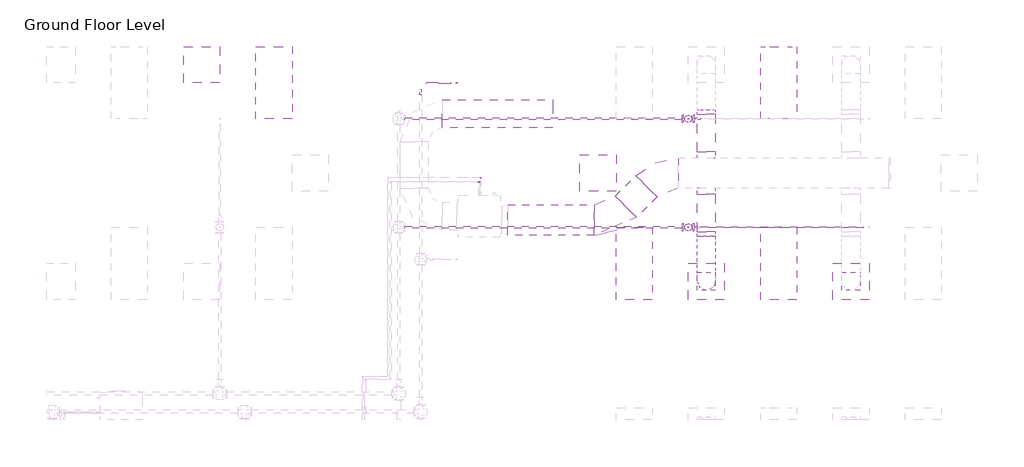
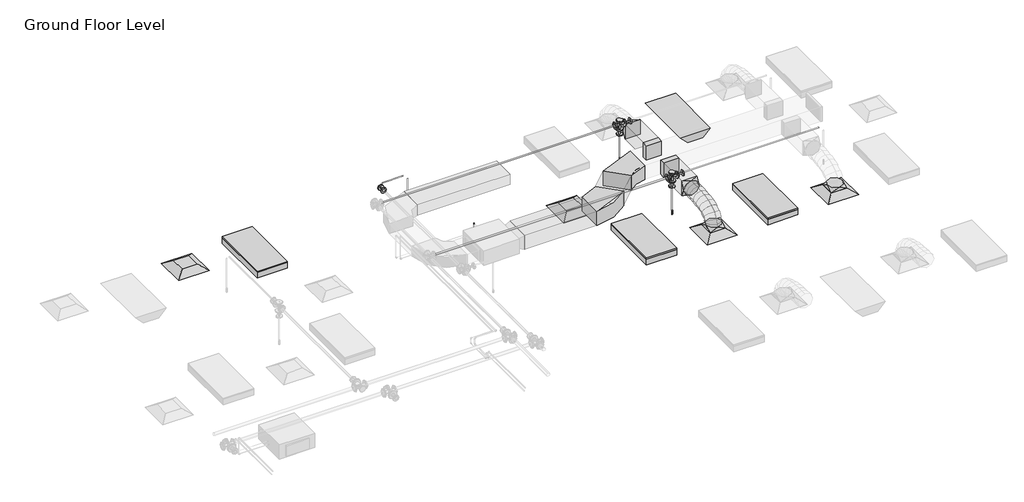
# One storey, part 71 of 73: 11 pipe fittings, 9 pipe segments, 8 duct fittings, 6 duct segments, 4 air terminals, 4 light fixtures, 3 fire suppression terminals.
"""IFC4 building model written with IfcOpenShell, lengths in millimetres."""

from ifc_helpers import new_model, si_unit, point, frame, frame_2d, origin, place, context, project, spatial, polyline, circle_curve, ellipse_curve, trimmed, segment, composite_curve, outline, extrude, transform, mapped, element, save
from ifc_brep_helpers import plane_surface, cylinder_surface, advanced_brep
from components import m_return_diffuser_600_x_600_face_300_x_300_connection_ff221211, m_rectangular_elbow_radius_1_5_w_acc56c25, m_rectangular_takeoff_standard_cb0ccb98, m_rectangular_takeoff_standard_2be5eba1, m_rectangular_to_round_transition_angle_45_degree_641efff0, m_sprinkler_dry_pendent_hosted_15_mm_dry_pendent_9bda8e11, m_sprinkler_pendent_15_mm_pendent_06fcbd8e, m_emergency_recessed_lighting_fixture_600x1200_277_5b10b25d, m_troffer_light_parabolic_rectangular1_0600x1200mm_4_lamp_86473d4a, m_elbow_generic_standard_a088f956, m_elbow_generic_standard_2a704253, m_reducer_flanged_cs_class_150_standard_ccf252ad, m_tee_round_base_flanged_cs_class_150_standard_7e5987a1

model = new_model("IFC4")

# Units and contexts
model_context = context("Model", 3, world=origin())
ifc_project = project(units=[si_unit("LENGTHUNIT", "METRE", prefix="MILLI")], contexts=[model_context])

# Site, building, storey
site = spatial("IfcSite", under=ifc_project)
building = spatial("IfcBuilding", under=site)
storey = spatial("IfcBuildingStorey", under=building, Name="Ground Floor Level", Elevation=900.0)

# Air terminals
placement = place(None, origin())
m_return_diffuser_600_x_600_face_300_x_300_connection_shape = m_return_diffuser_600_x_600_face_300_x_300_connection_ff221211(model_context)
element("IfcAirTerminal", 1, ObjectType="M_Return Diffuser : 600 x 600 Face 300 x 300 Connection", at=placement, inside=storey, context=model_context, shape_type="MappedRepresentation", body=[
    mapped(m_return_diffuser_600_x_600_face_300_x_300_connection_shape, transform((8942.7672395, 18735.2153534, 3650.0), x_axis=(1.0, 0.0, 0.0), y_axis=(0.0, 1.0, 0.0), z_axis=(0.0, 0.0, 1.0))),
])
element("IfcAirTerminal", 2, ObjectType="M_Supply Diffuser : 600 x 600 Face 300 x 300 Connection", at=placement, inside=storey, context=model_context, shape_type="MappedRepresentation", body=[
    mapped(m_return_diffuser_600_x_600_face_300_x_300_connection_shape, transform((10742.7672395, 16935.2153534, 3650.0), x_axis=(1.0, 0.0, 0.0), y_axis=(0.0, 1.0, 0.0), z_axis=(0.0, 0.0, 1.0))),
])
element("IfcAirTerminal", 3, ObjectType="M_Supply Diffuser : 600 x 600 Face 300 x 300 Connection", at=placement, inside=storey, context=model_context, shape_type="MappedRepresentation", body=[
    mapped(m_return_diffuser_600_x_600_face_300_x_300_connection_shape, transform((13142.7672395, 16935.2153534, 3650.0), x_axis=(1.0, 0.0, 0.0), y_axis=(0.0, 1.0, 0.0), z_axis=(0.0, 0.0, 1.0))),
])
element("IfcAirTerminal", 4, ObjectType="M_Supply Diffuser : 600 x 600 Face 300 x 300 Connection", at=placement, inside=storey, context=model_context, shape_type="MappedRepresentation", body=[
    mapped(m_return_diffuser_600_x_600_face_300_x_300_connection_shape, transform((2362.7672395, 20535.2153534, 3650.0), x_axis=(1.0, 0.0, 0.0), y_axis=(0.0, 1.0, 0.0), z_axis=(0.0, 0.0, 1.0))),
])

# Duct fittings
m_rectangular_elbow_radius_1_5_w_shape = m_rectangular_elbow_radius_1_5_w_acc56c25(model_context)
element("IfcDuctFitting", 5, ObjectType="M_Rectangular Elbow - Radius : 1.5 W", at=placement, inside=storey, context=model_context, shape_type="MappedRepresentation", body=[
    mapped(m_rectangular_elbow_radius_1_5_w_shape, transform((9187.6927358, 17956.1779527, 4100.0047224), x_axis=(0.9999999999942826, 0.0, -3.3815582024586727e-06), y_axis=(-9.063610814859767e-12, 0.9999999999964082, -2.680306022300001e-06), z_axis=(3.3815582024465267e-06, 2.6803060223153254e-06, 0.9999999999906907))),
])
element("IfcDuctFitting", 6, ObjectType="M_Rectangular Elbow - Radius : 1.5 W", at=placement, inside=storey, context=model_context, shape_type="MappedRepresentation", body=[
    mapped(m_rectangular_elbow_radius_1_5_w_shape, transform((9966.7301365, 18735.2153534, 4100.0), x_axis=(-1.0, 0.0, 0.0), y_axis=(0.0, -0.9999999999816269, 6.061864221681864e-06), z_axis=(0.0, 6.061864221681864e-06, 0.9999999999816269))),
])
m_rectangular_takeoff_standard_shape = m_rectangular_takeoff_standard_cb0ccb98(model_context)
element("IfcDuctFitting", 7, ObjectType="M_Rectangular Takeoff : Standard", at=placement, inside=storey, context=model_context, shape_type="MappedRepresentation", body=[
    mapped(m_rectangular_takeoff_standard_shape, transform((10742.7672395, 18985.2153534, 4100.0), x_axis=(0.0, 1.0, 0.0), y_axis=(1.0, 0.0, 0.0), z_axis=(0.0, 0.0, -1.0))),
])
m_rectangular_takeoff_standard_2_shape = m_rectangular_takeoff_standard_2be5eba1(model_context)
element("IfcDuctFitting", 8, ObjectType="M_Rectangular Takeoff : Standard", at=placement, inside=storey, context=model_context, shape_type="MappedRepresentation", body=[
    mapped(m_rectangular_takeoff_standard_2_shape, transform((10742.7672395, 18485.2153534, 4100.0), x_axis=(0.0, -1.0, 0.0), y_axis=(-1.0, 0.0, 0.0), z_axis=(0.0, 0.0, -1.0))),
])
m_rectangular_to_round_transition_angle_45_degree_shape = m_rectangular_to_round_transition_angle_45_degree_641efff0(model_context)
element("IfcDuctFitting", 9, ObjectType="M_Rectangular to Round Transition - Angle : 45 Degree", at=placement, inside=storey, context=model_context, shape_type="MappedRepresentation", body=[
    mapped(m_rectangular_to_round_transition_angle_45_degree_shape, transform((10742.7672395, 16935.2153534, 3751.6), x_axis=(0.0, 0.0, 1.0), y_axis=(-1.0, 0.0, 0.0), z_axis=(0.0, -1.0, 0.0))),
])
element("IfcDuctFitting", 10, ObjectType="M_Rectangular to Round Transition - Angle : 45 Degree", at=placement, inside=storey, context=model_context, shape_type="MappedRepresentation", body=[
    mapped(m_rectangular_to_round_transition_angle_45_degree_shape, transform((10742.7672395, 17762.5512847, 4100.0), x_axis=(0.0, -1.0, 0.0), y_axis=(1.0, 0.0, 0.0), z_axis=(0.0, 0.0, 1.0))),
])
element("IfcDuctFitting", 11, ObjectType="M_Rectangular to Round Transition - Angle : 45 Degree", at=placement, inside=storey, context=model_context, shape_type="MappedRepresentation", body=[
    mapped(m_rectangular_to_round_transition_angle_45_degree_shape, transform((10742.7672395, 19707.8794221, 4100.0), x_axis=(0.0, 1.0, 0.0), y_axis=(-1.0, 0.0, 0.0), z_axis=(0.0, 0.0, 1.0))),
])
element("IfcDuctFitting", 12, ObjectType="M_Rectangular to Round Transition - Angle : 45 Degree", at=placement, inside=storey, context=model_context, shape_type="MappedRepresentation", body=[
    mapped(m_rectangular_to_round_transition_angle_45_degree_shape, transform((13142.7672395, 16935.2153534, 3751.6), x_axis=(0.0, 0.0, 1.0), y_axis=(-1.0, 0.0, 0.0), z_axis=(0.0, -1.0, 0.0))),
])

# Duct segments
element("IfcDuctSegment", 13, ObjectType="Flex - Round", at=placement, inside=storey, context=model_context, shape_type="AdvancedBrep", body=[
    advanced_brep(
    [(10892.7672395, 16935.2153534, 3826.6), (10742.7672395, 16785.2153534, 3826.6), (10592.7672395, 16935.2153534, 3826.6), (10742.7672395, 17085.2153534, 3826.6), (10892.7672395, 16935.2153534, 3857.9377114), (10742.7672395, 16785.2153534, 3883.5809337), (10592.7672395, 16935.2153534, 3857.9377114), (10742.7672395, 17085.2153534, 3832.2944892), (10892.7672395, 16952.2312859, 3906.2505728), (10742.7672395, 16818.493307, 3978.0660967), (10592.7672395, 16952.2312859, 3906.2505728), (10742.7672395, 17085.9692649, 3834.435049), (10892.7672395, 16999.4151663, 3968.7113131), (10742.7672395, 16895.209267, 4079.6206026), (10592.7672395, 16999.4151663, 3968.7113131), (10742.7672395, 17103.6210655, 3857.8020236), (10892.7672395, 17070.9711184, 4016.0700639), (10742.7672395, 17002.0370628, 4150.3237489), (10592.7672395, 17070.9711184, 4016.0700639), (10742.7672395, 17139.9051741, 3881.8163788), (10892.7672395, 17161.1032664, 4050.4146682), (10742.7672395, 17117.5425033, 4194.3367758), (10592.7672395, 17161.1032664, 4050.4146682), (10742.7672395, 17204.6640296, 3906.4925606), (10892.7672395, 17264.0157343, 4073.8329691), (10742.7672395, 17237.4548103, 4221.6234841), (10592.7672395, 17264.0157343, 4073.8329691), (10742.7672395, 17290.5766583, 3926.0424542), (10892.7672395, 17373.912646, 4088.4128097), (10742.7672395, 17358.7617437, 4237.7170733), (10592.7672395, 17373.912646, 4088.4128097), (10742.7672395, 17389.0635483, 3939.1085462), (10892.7672395, 17484.9981256, 4096.242033), (10742.7672395, 17477.4927975, 4246.085151), (10592.7672395, 17484.9981256, 4096.242033), (10742.7672395, 17492.5034538, 3946.398915), (10892.7672395, 17591.4762972, 4099.4084821), (10742.7672395, 17588.7848041, 4249.394754), (10592.7672395, 17591.4762972, 4099.4084821), (10742.7672395, 17594.1677903, 3949.4222102), (10892.7672395, 17687.5512847, 4100.0), (10742.7672395, 17688.4747925, 3950.0028429), (10592.7672395, 17687.5512847, 4100.0), (10742.7672395, 17686.6277768, 4249.9971571)],
    [
        (0, 1, circle_curve(frame((10742.7672395, 16935.2153534, 3826.6), z_axis=(0.0, 0.0, -1.0), x_axis=(1.0, 0.0, 0.0)), 150.0)),
        (1, 2, circle_curve(frame((10742.7672395, 16935.2153534, 3826.6), z_axis=(0.0, 0.0, -1.0), x_axis=(1.0, 0.0, 0.0)), 150.0)),
        (2, 3, circle_curve(frame((10742.7672395, 16935.2153534, 3826.6), z_axis=(0.0, 0.0, -1.0), x_axis=(1.0, 0.0, 0.0)), 150.0)),
        (3, 0, circle_curve(frame((10742.7672395, 16935.2153534, 3826.6), z_axis=(0.0, 0.0, -1.0), x_axis=(1.0, 0.0, 0.0)), 150.0)),
        (0, 4),
        (4, 5, ellipse_curve(frame((10742.7672395, 16935.2153534, 3857.9377114), z_axis=(0.0, -0.16851014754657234, -0.9856999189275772), x_axis=(0.0, 0.9856999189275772, -0.1685101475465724)), 152.176131, 150.0)),
        (5, 1),
        (5, 6, ellipse_curve(frame((10742.7672395, 16935.2153534, 3857.9377114), z_axis=(0.0, -0.16851014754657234, -0.9856999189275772), x_axis=(0.0, 0.9856999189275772, -0.1685101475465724)), 152.176131, 150.0)),
        (6, 2),
        (6, 7, ellipse_curve(frame((10742.7672395, 16935.2153534, 3857.9377114), z_axis=(0.0, -0.16851014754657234, -0.9856999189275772), x_axis=(0.0, 0.9856999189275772, -0.1685101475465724)), 152.176131, 150.0)),
        (7, 3),
        (7, 4, ellipse_curve(frame((10742.7672395, 16935.2153534, 3857.9377114), z_axis=(0.0, -0.16851014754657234, -0.9856999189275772), x_axis=(0.0, 0.9856999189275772, -0.1685101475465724)), 152.176131, 150.0)),
        (4, 8),
        (8, 9, ellipse_curve(frame((10742.7672395, 16952.2312859, 3906.2505728), z_axis=(0.0, -0.47309225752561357, -0.8810128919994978), x_axis=(0.0, 0.8810128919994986, -0.47309225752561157)), 151.8002519, 150.0)),
        (9, 5),
        (9, 10, ellipse_curve(frame((10742.7672395, 16952.2312859, 3906.2505728), z_axis=(0.0, -0.47309225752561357, -0.8810128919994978), x_axis=(0.0, 0.8810128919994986, -0.47309225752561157)), 151.8002519, 150.0)),
        (10, 6),
        (10, 11, ellipse_curve(frame((10742.7672395, 16952.2312859, 3906.2505728), z_axis=(0.0, -0.47309225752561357, -0.8810128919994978), x_axis=(0.0, 0.8810128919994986, -0.47309225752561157)), 151.8002519, 150.0)),
        (11, 7),
        (11, 8, ellipse_curve(frame((10742.7672395, 16952.2312859, 3906.2505728), z_axis=(0.0, -0.47309225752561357, -0.8810128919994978), x_axis=(0.0, 0.8810128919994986, -0.47309225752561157)), 151.8002519, 150.0)),
        (8, 12),
        (12, 13, ellipse_curve(frame((10742.7672395, 16999.4151663, 3968.7113131), z_axis=(0.0, -0.7287877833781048, -0.6847396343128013), x_axis=(0.0, 0.6847396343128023, -0.7287877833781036)), 152.1832446, 150.0)),
        (13, 9),
        (13, 14, ellipse_curve(frame((10742.7672395, 16999.4151663, 3968.7113131), z_axis=(0.0, -0.7287877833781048, -0.6847396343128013), x_axis=(0.0, 0.6847396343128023, -0.7287877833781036)), 152.1832446, 150.0)),
        (14, 10),
        (14, 15, ellipse_curve(frame((10742.7672395, 16999.4151663, 3968.7113131), z_axis=(0.0, -0.7287877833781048, -0.6847396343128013), x_axis=(0.0, 0.6847396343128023, -0.7287877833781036)), 152.1832446, 150.0)),
        (15, 11),
        (15, 12, ellipse_curve(frame((10742.7672395, 16999.4151663, 3968.7113131), z_axis=(0.0, -0.7287877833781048, -0.6847396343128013), x_axis=(0.0, 0.6847396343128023, -0.7287877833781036)), 152.1832446, 150.0)),
        (12, 16),
        (16, 17, ellipse_curve(frame((10742.7672395, 17070.9711184, 4016.0700639), z_axis=(0.0, -0.8895859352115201, -0.45676784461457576), x_axis=(0.0, 0.45676784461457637, -0.8895859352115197)), 150.91705, 150.0)),
        (17, 13),
        (17, 18, ellipse_curve(frame((10742.7672395, 17070.9711184, 4016.0700639), z_axis=(0.0, -0.8895859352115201, -0.45676784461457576), x_axis=(0.0, 0.45676784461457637, -0.8895859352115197)), 150.91705, 150.0)),
        (18, 14),
        (18, 19, ellipse_curve(frame((10742.7672395, 17070.9711184, 4016.0700639), z_axis=(0.0, -0.8895859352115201, -0.45676784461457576), x_axis=(0.0, 0.45676784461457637, -0.8895859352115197)), 150.91705, 150.0)),
        (19, 15),
        (19, 16, ellipse_curve(frame((10742.7672395, 17070.9711184, 4016.0700639), z_axis=(0.0, -0.8895859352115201, -0.45676784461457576), x_axis=(0.0, 0.45676784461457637, -0.8895859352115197)), 150.91705, 150.0)),
        (16, 20),
        (20, 21, ellipse_curve(frame((10742.7672395, 17161.1032664, 4050.4146682), z_axis=(0.0, -0.9571203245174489, -0.2896906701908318), x_axis=(0.0, 0.28969067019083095, -0.9571203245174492)), 150.369921, 150.0)),
        (21, 17),
        (21, 22, ellipse_curve(frame((10742.7672395, 17161.1032664, 4050.4146682), z_axis=(0.0, -0.9571203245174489, -0.2896906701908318), x_axis=(0.0, 0.28969067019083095, -0.9571203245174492)), 150.369921, 150.0)),
        (22, 18),
        (22, 23, ellipse_curve(frame((10742.7672395, 17161.1032664, 4050.4146682), z_axis=(0.0, -0.9571203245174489, -0.2896906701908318), x_axis=(0.0, 0.28969067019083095, -0.9571203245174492)), 150.369921, 150.0)),
        (23, 19),
        (23, 20, ellipse_curve(frame((10742.7672395, 17161.1032664, 4050.4146682), z_axis=(0.0, -0.9571203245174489, -0.2896906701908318), x_axis=(0.0, 0.28969067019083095, -0.9571203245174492)), 150.369921, 150.0)),
        (20, 24),
        (24, 25, ellipse_curve(frame((10742.7672395, 17264.0157343, 4073.8329691), z_axis=(0.0, -0.9842313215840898, -0.17688613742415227), x_axis=(0.0, 0.17688613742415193, -0.9842313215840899)), 150.1583131, 150.0)),
        (25, 21),
        (25, 26, ellipse_curve(frame((10742.7672395, 17264.0157343, 4073.8329691), z_axis=(0.0, -0.9842313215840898, -0.17688613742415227), x_axis=(0.0, 0.17688613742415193, -0.9842313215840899)), 150.1583131, 150.0)),
        (26, 22),
        (26, 27, ellipse_curve(frame((10742.7672395, 17264.0157343, 4073.8329691), z_axis=(0.0, -0.9842313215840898, -0.17688613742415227), x_axis=(0.0, 0.17688613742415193, -0.9842313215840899)), 150.1583131, 150.0)),
        (27, 23),
        (27, 24, ellipse_curve(frame((10742.7672395, 17264.0157343, 4073.8329691), z_axis=(0.0, -0.9842313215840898, -0.17688613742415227), x_axis=(0.0, 0.17688613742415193, -0.9842313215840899)), 150.1583131, 150.0)),
        (24, 28),
        (28, 29, ellipse_curve(frame((10742.7672395, 17373.912646, 4088.4128097), z_axis=(0.0, -0.9948906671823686, -0.1009582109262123), x_axis=(0.0, 0.10095821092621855, -0.994890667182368)), 150.0710264, 150.0)),
        (29, 25),
        (29, 30, ellipse_curve(frame((10742.7672395, 17373.912646, 4088.4128097), z_axis=(0.0, -0.9948906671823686, -0.1009582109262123), x_axis=(0.0, 0.10095821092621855, -0.994890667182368)), 150.0710264, 150.0)),
        (30, 26),
        (30, 31, ellipse_curve(frame((10742.7672395, 17373.912646, 4088.4128097), z_axis=(0.0, -0.9948906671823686, -0.1009582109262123), x_axis=(0.0, 0.10095821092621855, -0.994890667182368)), 150.0710264, 150.0)),
        (31, 27),
        (31, 28, ellipse_curve(frame((10742.7672395, 17373.912646, 4088.4128097), z_axis=(0.0, -0.9948906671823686, -0.1009582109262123), x_axis=(0.0, 0.10095821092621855, -0.994890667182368)), 150.0710264, 150.0)),
        (28, 32),
        (32, 33, ellipse_curve(frame((10742.7672395, 17484.9981256, 4096.242033), z_axis=(0.0, -0.9987479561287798, -0.05002519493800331), x_axis=(0.0, 0.05002519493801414, -0.9987479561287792)), 150.0309634, 150.0)),
        (33, 29),
        (33, 34, ellipse_curve(frame((10742.7672395, 17484.9981256, 4096.242033), z_axis=(0.0, -0.9987479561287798, -0.05002519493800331), x_axis=(0.0, 0.05002519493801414, -0.9987479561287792)), 150.0309634, 150.0)),
        (34, 30),
        (34, 35, ellipse_curve(frame((10742.7672395, 17484.9981256, 4096.242033), z_axis=(0.0, -0.9987479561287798, -0.05002519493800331), x_axis=(0.0, 0.05002519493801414, -0.9987479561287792)), 150.0309634, 150.0)),
        (35, 31),
        (35, 32, ellipse_curve(frame((10742.7672395, 17484.9981256, 4096.242033), z_axis=(0.0, -0.9987479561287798, -0.05002519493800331), x_axis=(0.0, 0.05002519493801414, -0.9987479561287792)), 150.0309634, 150.0)),
        (32, 36),
        (36, 37, ellipse_curve(frame((10742.7672395, 17591.4762972, 4099.4084821), z_axis=(0.0, -0.9998390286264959, -0.017942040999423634), x_axis=(0.0, 0.017942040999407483, -0.9998390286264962)), 150.0104193, 150.0)),
        (37, 33),
        (37, 38, ellipse_curve(frame((10742.7672395, 17591.4762972, 4099.4084821), z_axis=(0.0, -0.9998390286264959, -0.017942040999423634), x_axis=(0.0, 0.017942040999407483, -0.9998390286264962)), 150.0104193, 150.0)),
        (38, 34),
        (38, 39, ellipse_curve(frame((10742.7672395, 17591.4762972, 4099.4084821), z_axis=(0.0, -0.9998390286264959, -0.017942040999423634), x_axis=(0.0, 0.017942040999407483, -0.9998390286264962)), 150.0104193, 150.0)),
        (39, 35),
        (39, 36, ellipse_curve(frame((10742.7672395, 17591.4762972, 4099.4084821), z_axis=(0.0, -0.9998390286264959, -0.017942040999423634), x_axis=(0.0, 0.017942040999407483, -0.9998390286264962)), 150.0104193, 150.0)),
        (40, 41, circle_curve(frame((10742.7672395, 17687.5512847, 4100.0), z_axis=(0.0, 0.9999810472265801, 0.006156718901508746), x_axis=(1.0, 0.0, 0.0)), 150.0)),
        (41, 42, circle_curve(frame((10742.7672395, 17687.5512847, 4100.0), z_axis=(0.0, 0.9999810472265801, 0.006156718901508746), x_axis=(1.0, 0.0, 0.0)), 150.0)),
        (42, 43, circle_curve(frame((10742.7672395, 17687.5512847, 4100.0), z_axis=(0.0, 0.9999810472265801, 0.006156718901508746), x_axis=(1.0, 0.0, 0.0)), 150.0)),
        (43, 40, circle_curve(frame((10742.7672395, 17687.5512847, 4100.0), z_axis=(0.0, 0.9999810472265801, 0.006156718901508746), x_axis=(1.0, 0.0, 0.0)), 150.0)),
        (36, 40),
        (43, 37),
        (42, 38),
        (41, 39),
    ],
    [
        plane_surface(frame((10742.7672395, 16785.2153534, 3826.6), z_axis=(0.0, 0.0, -1.0), x_axis=(1.0, 0.0, 0.0))),
        cylinder_surface(frame((10742.7672395, 16935.2153534, 3826.6), z_axis=(0.0, 0.0, -1.0), x_axis=(1.0, 0.0, 0.0)), 150.0),
        cylinder_surface(frame((10742.7672395, 16935.2153534, 3857.9377114), z_axis=(0.0, -0.3322008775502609, -0.9432086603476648), x_axis=(1.0, 0.0, 0.0)), 150.0),
        cylinder_surface(frame((10742.7672395, 16952.2312859, 3906.2505728), z_axis=(0.0, -0.6027625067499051, -0.7979206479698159), x_axis=(1.0, 0.0, 0.0)), 150.0),
        cylinder_surface(frame((10742.7672395, 16999.4151663, 3968.7113131), z_axis=(0.0, -0.833902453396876, -0.5519118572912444), x_axis=(1.0, 0.0, 0.0)), 150.0),
        cylinder_surface(frame((10742.7672395, 17070.9711184, 4016.0700639), z_axis=(0.0, -0.9344582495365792, -0.35607271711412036), x_axis=(1.0, 0.0, 0.0)), 150.0),
        cylinder_surface(frame((10742.7672395, 17161.1032664, 4050.4146682), z_axis=(0.0, -0.9750732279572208, -0.22188330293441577), x_axis=(1.0, 0.0, 0.0)), 150.0),
        cylinder_surface(frame((10742.7672395, 17264.0157343, 4073.8329691), z_axis=(0.0, -0.9913140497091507, -0.13151598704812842), x_axis=(1.0, 0.0, 0.0)), 150.0),
        cylinder_surface(frame((10742.7672395, 17373.912646, 4088.4128097), z_axis=(0.0, -0.9975255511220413, -0.07030487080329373), x_axis=(1.0, 0.0, 0.0)), 150.0),
        cylinder_surface(frame((10742.7672395, 17484.9981256, 4096.242033), z_axis=(0.0, -0.9995581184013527, -0.02972487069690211), x_axis=(1.0, 0.0, 0.0)), 150.0),
        plane_surface(frame((10742.7672395, 17686.6277768, 4249.9971571), z_axis=(0.0, 0.9999810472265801, 0.0061567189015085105), x_axis=(1.0, 0.0, 0.0))),
        cylinder_surface(frame((10742.7672395, 17591.4762972, 4099.4084821), z_axis=(0.0, -0.9999810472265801, -0.006156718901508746), x_axis=(1.0, 0.0, 0.0)), 150.0),
    ],
    [
        (0, [[1, 2, 3, 4]]),
        (1, [[-1, 5, 6, 7]]),
        (1, [[-2, -7, 8, 9]]),
        (1, [[-3, -9, 10, 11]]),
        (1, [[-4, -11, 12, -5]]),
        (2, [[-6, 13, 14, 15]]),
        (2, [[-8, -15, 16, 17]]),
        (2, [[-10, -17, 18, 19]]),
        (2, [[-12, -19, 20, -13]]),
        (3, [[-14, 21, 22, 23]]),
        (3, [[-16, -23, 24, 25]]),
        (3, [[-18, -25, 26, 27]]),
        (3, [[-20, -27, 28, -21]]),
        (4, [[-22, 29, 30, 31]]),
        (4, [[-24, -31, 32, 33]]),
        (4, [[-26, -33, 34, 35]]),
        (4, [[-28, -35, 36, -29]]),
        (5, [[-30, 37, 38, 39]]),
        (5, [[-32, -39, 40, 41]]),
        (5, [[-34, -41, 42, 43]]),
        (5, [[-36, -43, 44, -37]]),
        (6, [[-38, 45, 46, 47]]),
        (6, [[-40, -47, 48, 49]]),
        (6, [[-42, -49, 50, 51]]),
        (6, [[-44, -51, 52, -45]]),
        (7, [[-46, 53, 54, 55]]),
        (7, [[-48, -55, 56, 57]]),
        (7, [[-50, -57, 58, 59]]),
        (7, [[-52, -59, 60, -53]]),
        (8, [[-54, 61, 62, 63]]),
        (8, [[-56, -63, 64, 65]]),
        (8, [[-58, -65, 66, 67]]),
        (8, [[-60, -67, 68, -61]]),
        (9, [[-62, 69, 70, 71]]),
        (9, [[-64, -71, 72, 73]]),
        (9, [[-66, -73, 74, 75]]),
        (9, [[-68, -75, 76, -69]]),
        (10, [[77, 78, 79, 80]]),
        (11, [[-70, 81, -80, 82]]),
        (11, [[-72, -82, -79, 83]]),
        (11, [[-74, -83, -78, 84]]),
        (11, [[-76, -84, -77, -81]]),
    ],
),
])
element("IfcDuctSegment", 14, ObjectType="Radius Elbows / Taps", at=placement, inside=storey, context=model_context, shape_type="SweptSolid", body=[
    extrude(outline(polyline([(7447.693178, 17706.1779527), (7447.693178, 18206.1779527), (8877.032564, 18206.1779527), (8877.032564, 17706.1779527), (7447.693178, 17706.1779527)])), frame((0.0, 0.0, 3950.0057729), z_axis=(0.0, 0.0, 1.0), x_axis=(1.0, 0.0, 0.0)), (0.0, 0.0, 1.0), 300.0),
])
element("IfcDuctSegment", 15, ObjectType="Radius Elbows / Taps", at=placement, inside=storey, context=model_context, shape_type="SweptSolid", body=[
    extrude(outline(polyline([(9584.1393452, 17999.0711715), (9230.5859546, 18352.6245621), (9570.2835271, 18692.3221346), (9923.8369177, 18338.768744), (9584.1393452, 17999.0711715)])), frame((0.0, 0.0, 3950.0033908), z_axis=(0.0, 0.0, 1.0), x_axis=(1.0, 0.0, 0.0)), (0.0, 0.0, 1.0), 300.0),
])
element("IfcDuctSegment", 16, ObjectType="Radius Elbows / Taps", at=placement, inside=storey, context=model_context, shape_type="SweptSolid", body=[
    extrude(outline(polyline([(6355.2889492, 19488.7408949), (6355.2889492, 19950.6158949), (8193.4139492, 19950.6158949), (8193.4139492, 19488.7408949), (6355.2889492, 19488.7408949)])), frame((0.0, 0.0, 3968.1432729), z_axis=(0.0, 0.0, 1.0), x_axis=(1.0, 0.0, 0.0)), (0.0, 0.0, 1.0), 214.3),
])
element("IfcDuctSegment", 17, ObjectType="Radius Elbows / Taps", at=placement, inside=storey, context=model_context, shape_type="SweptSolid", body=[
    extrude(outline(polyline([(10892.7672395, 19086.8153534), (10592.7672395, 19086.8153534), (10592.7672395, 19707.8794221), (10892.7672395, 19707.8794221), (10892.7672395, 19086.8153534)])), frame((0.0, 0.0, 3950.0), z_axis=(0.0, 0.0, 1.0), x_axis=(1.0, 0.0, 0.0)), (0.0, 0.0, 1.0), 300.0),
])
element("IfcDuctSegment", 18, ObjectType="Radius Elbows / Taps", at=placement, inside=storey, context=model_context, shape_type="SweptSolid", body=[
    extrude(outline(polyline([(10592.7672395, 18383.6153534), (10892.7672395, 18383.6153534), (10892.7672395, 17762.5512847), (10592.7672395, 17762.5512847), (10592.7672395, 18383.6153534)])), frame((0.0, 0.0, 3950.0), z_axis=(0.0, 0.0, 1.0), x_axis=(1.0, 0.0, 0.0)), (0.0, 0.0, 1.0), 300.0),
])

# Fire suppression terminals
m_sprinkler_dry_pendent_hosted_15_mm_dry_pendent_shape = m_sprinkler_dry_pendent_hosted_15_mm_dry_pendent_9bda8e11(model_context)
element("IfcFireSuppressionTerminal", 19, ObjectType="M_Sprinkler - Dry - Pendent - Hosted : 15 mm Dry Pendent", at=placement, inside=storey, context=model_context, shape_type="MappedRepresentation", body=[
    mapped(m_sprinkler_dry_pendent_hosted_15_mm_dry_pendent_shape, transform((10442.7672395, 19635.2153534, 3650.0), x_axis=(1.0, 0.0, 0.0), y_axis=(0.0, -1.0, 0.0), z_axis=(0.0, 0.0, -1.0))),
])
element("IfcFireSuppressionTerminal", 20, ObjectType="M_Sprinkler - Dry - Pendent - Hosted : 15 mm Dry Pendent", at=placement, inside=storey, context=model_context, shape_type="MappedRepresentation", body=[
    mapped(m_sprinkler_dry_pendent_hosted_15_mm_dry_pendent_shape, transform((10442.7672395, 17835.2153534, 3650.0), x_axis=(1.0, 0.0, 0.0), y_axis=(0.0, -1.0, 0.0), z_axis=(0.0, 0.0, -1.0))),
])
m_sprinkler_pendent_15_mm_pendent_shape = m_sprinkler_pendent_15_mm_pendent_06fcbd8e(model_context)
element("IfcFireSuppressionTerminal", 21, ObjectType="M_Sprinkler - Pendent : 15 mm Pendent", at=placement, inside=storey, context=model_context, shape_type="MappedRepresentation", body=[
    mapped(m_sprinkler_pendent_15_mm_pendent_shape, transform((6592.5481019, 20231.639515, 3650.0), x_axis=(1.0, 0.0, 0.0), y_axis=(0.0, 1.0, 0.0), z_axis=(0.0, 0.0, 1.0))),
])

# Light fixtures
m_emergency_recessed_lighting_fixture_600x1200_277_shape = m_emergency_recessed_lighting_fixture_600x1200_277_5b10b25d(model_context)
element("IfcLightFixture", 22, ObjectType="M_Emergency Recessed Lighting Fixture : 600x1200 - 277", at=placement, inside=storey, context=model_context, shape_type="MappedRepresentation", body=[
    mapped(m_emergency_recessed_lighting_fixture_600x1200_277_shape, transform((11642.7672395, 19635.2153534, 3650.0), x_axis=(0.0, 1.0, 0.0), y_axis=(-1.0, 0.0, 0.0), z_axis=(0.0, 0.0, 1.0))),
])
m_troffer_light_parabolic_rectangular1_0600x1200mm_4_lamp_shape = m_troffer_light_parabolic_rectangular1_0600x1200mm_4_lamp_86473d4a(model_context)
element("IfcLightFixture", 23, ObjectType="M_Troffer Light - Parabolic Rectangular1 : 0600x1200mm(4 Lamp) - 277V 2", at=placement, inside=storey, context=model_context, shape_type="MappedRepresentation", body=[
    mapped(m_troffer_light_parabolic_rectangular1_0600x1200mm_4_lamp_shape, transform((3503.3013074, 20253.918855, 3650.0), x_axis=(0.0, 1.0, 0.0), y_axis=(-1.0, 0.0, 0.0), z_axis=(0.0, 0.0, 1.0))),
])
element("IfcLightFixture", 24, ObjectType="M_Troffer Light - Parabolic Rectangular1 : 0600x1200mm(4 Lamp) - 277V 2", at=placement, inside=storey, context=model_context, shape_type="MappedRepresentation", body=[
    mapped(m_troffer_light_parabolic_rectangular1_0600x1200mm_4_lamp_shape, transform((9483.3013074, 17253.918855, 3650.0), x_axis=(0.0, 1.0, 0.0), y_axis=(-1.0, 0.0, 0.0), z_axis=(0.0, 0.0, 1.0))),
])
element("IfcLightFixture", 25, ObjectType="M_Troffer Light - Parabolic Rectangular1 : 0600x1200mm(4 Lamp) - 277V 2", at=placement, inside=storey, context=model_context, shape_type="MappedRepresentation", body=[
    mapped(m_troffer_light_parabolic_rectangular1_0600x1200mm_4_lamp_shape, transform((11883.3013074, 17253.918855, 3650.0), x_axis=(0.0, 1.0, 0.0), y_axis=(-1.0, 0.0, 0.0), z_axis=(0.0, 0.0, 1.0))),
])

# Pipe fittings
m_elbow_generic_standard_shape = m_elbow_generic_standard_a088f956(model_context)
element("IfcPipeFitting", 26, ObjectType="M_Elbow - Generic : Standard", at=placement, inside=storey, context=model_context, shape_type="MappedRepresentation", body=[
    mapped(m_elbow_generic_standard_shape, transform((6968.8139492, 18590.9278534, 4034.0932729), x_axis=(0.0, 1.0, 0.0), y_axis=(0.0, 0.0, -1.0), z_axis=(-1.0, 0.0, 0.0))),
])
element("IfcPipeFitting", 27, ObjectType="M_Elbow - Generic : Standard", at=placement, inside=storey, context=model_context, shape_type="MappedRepresentation", body=[
    mapped(m_elbow_generic_standard_shape, transform((6968.8139492, 18590.9278534, 3900.0), x_axis=(0.0, 0.0, -1.0), y_axis=(-1.0, 0.0, 0.0), z_axis=(0.0, 1.0, 0.0))),
])
m_elbow_generic_standard_2_shape = m_elbow_generic_standard_2a704253(model_context)
element("IfcPipeFitting", 28, ObjectType="M_Elbow - Generic : Standard", at=placement, inside=storey, context=model_context, shape_type="MappedRepresentation", body=[
    mapped(m_elbow_generic_standard_2_shape, transform((6993.8139492, 18659.0778534, 4084.8932729), x_axis=(0.0, 1.0, 0.0), y_axis=(0.0, 0.0, -1.0), z_axis=(-1.0, 0.0, 0.0))),
])
element("IfcPipeFitting", 29, ObjectType="M_Elbow - Generic : Standard", at=placement, inside=storey, context=model_context, shape_type="MappedRepresentation", body=[
    mapped(m_elbow_generic_standard_2_shape, transform((6993.8139492, 18659.0778536, 3900.0), x_axis=(0.0, 0.0, -1.0), y_axis=(-1.0, 0.0, 0.0), z_axis=(0.0, 1.0, 0.0))),
])
m_reducer_flanged_cs_class_150_standard_shape = m_reducer_flanged_cs_class_150_standard_ccf252ad(model_context)
element("IfcPipeFitting", 30, ObjectType="M_Reducer - Flanged - CS - Class 150 : Standard", at=placement, inside=storey, context=model_context, shape_type="MappedRepresentation", body=[
    mapped(m_reducer_flanged_cs_class_150_standard_shape, transform((5997.057812, 20024.6309212, 4291.0943441), x_axis=(0.0, 1.0, 0.0), y_axis=(-1.0, 0.0, 0.0), z_axis=(0.0, 0.0, 1.0))),
])
element("IfcPipeFitting", 31, ObjectType="M_Reducer - Flanged - CS - Class 150 : Standard", at=placement, inside=storey, context=model_context, shape_type="MappedRepresentation", body=[
    mapped(m_reducer_flanged_cs_class_150_standard_shape, transform((10543.4758332, 17835.2153534, 4360.0), x_axis=(1.0, 0.0, 0.0), y_axis=(0.0, 0.0, 1.0), z_axis=(0.0, -1.0, 0.0))),
])
element("IfcPipeFitting", 32, ObjectType="M_Reducer - Flanged - CS - Class 150 : Standard", at=placement, inside=storey, context=model_context, shape_type="MappedRepresentation", body=[
    mapped(m_reducer_flanged_cs_class_150_standard_shape, transform((10442.7672395, 17835.2153534, 4259.2914062), x_axis=(0.0, 0.0, -1.0), y_axis=(-1.0, 0.0, 0.0), z_axis=(0.0, 1.0, 0.0))),
])
element("IfcPipeFitting", 33, ObjectType="M_Reducer - Flanged - CS - Class 150 : Standard", at=placement, inside=storey, context=model_context, shape_type="MappedRepresentation", body=[
    mapped(m_reducer_flanged_cs_class_150_standard_shape, transform((10543.4758332, 19635.2153534, 4360.0), x_axis=(1.0, 0.0, 0.0), y_axis=(0.0, 0.0, 1.0), z_axis=(0.0, -1.0, 0.0))),
])
element("IfcPipeFitting", 34, ObjectType="M_Reducer - Flanged - CS - Class 150 : Standard", at=placement, inside=storey, context=model_context, shape_type="MappedRepresentation", body=[
    mapped(m_reducer_flanged_cs_class_150_standard_shape, transform((10442.7672395, 19635.2153534, 4259.2914062), x_axis=(0.0, 0.0, -1.0), y_axis=(-1.0, 0.0, 0.0), z_axis=(0.0, 1.0, 0.0))),
])
m_tee_round_base_flanged_cs_class_150_standard_shape = m_tee_round_base_flanged_cs_class_150_standard_7e5987a1(model_context)
element("IfcPipeFitting", 35, ObjectType="M_Tee Round Base - Flanged - CS - Class 150 : Standard", at=placement, inside=storey, context=model_context, shape_type="MappedRepresentation", body=[
    mapped(m_tee_round_base_flanged_cs_class_150_standard_shape, transform((10442.7672395, 17835.2153534, 4360.0), x_axis=(1.0, 0.0, 0.0), y_axis=(0.0, 0.0, 1.0), z_axis=(0.0, -1.0, 0.0))),
])
element("IfcPipeFitting", 36, ObjectType="M_Tee Round Base - Flanged - CS - Class 150 : Standard", at=placement, inside=storey, context=model_context, shape_type="MappedRepresentation", body=[
    mapped(m_tee_round_base_flanged_cs_class_150_standard_shape, transform((10442.7672395, 19635.2153534, 4360.0), x_axis=(1.0, 0.0, 0.0), y_axis=(0.0, 0.0, 1.0), z_axis=(0.0, -1.0, 0.0))),
])

# Pipe segments
element("IfcPipeSegment", 37, ObjectType="Copper", at=placement, inside=storey, context=model_context, shape_type="SweptSolid", body=[
    extrude(outline(composite_curve([segment(trimmed(circle_curve(frame_2d((6968.8139492, 18590.9278534)), 6.5), [point((6975.3139492, 18590.9278534))], [point((6968.8139492, 18584.4278534))], False, "CARTESIAN"), True, "CONTINUOUS"), segment(trimmed(circle_curve(frame_2d((6968.8139492, 18590.9278534)), 6.5), [point((6968.8139492, 18584.4278534))], [point((6962.3139492, 18590.9278534))], False, "CARTESIAN"), True, "CONTINUOUS"), segment(trimmed(circle_curve(frame_2d((6968.8139492, 18590.9278534)), 6.5), [point((6962.3139492, 18590.9278534))], [point((6968.8139492, 18597.4278534))], False, "CARTESIAN"), True, "CONTINUOUS"), segment(trimmed(circle_curve(frame_2d((6968.8139492, 18590.9278534)), 6.5), [point((6968.8139492, 18597.4278534))], [point((6975.3139492, 18590.9278534))], False, "CARTESIAN"), True, "CONTINUOUS")], self_intersect=False)), frame((0.0, 0.0, 3914.2875), z_axis=(0.0, 0.0, 1.0), x_axis=(1.0, 0.0, 0.0)), (0.0, 0.0, 1.0), 105.5182729),
])
element("IfcPipeSegment", 38, ObjectType="Copper", at=placement, inside=storey, context=model_context, shape_type="SweptSolid", body=[
    extrude(outline(composite_curve([segment(trimmed(circle_curve(frame_2d((6993.8139492, 18659.0778534)), 3.35), [point((6997.1639492, 18659.0778534))], [point((6993.8139492, 18655.7278534))], False, "CARTESIAN"), True, "CONTINUOUS"), segment(trimmed(circle_curve(frame_2d((6993.8139492, 18659.0778534)), 3.35), [point((6993.8139492, 18655.7278534))], [point((6990.4639492, 18659.0778534))], False, "CARTESIAN"), True, "CONTINUOUS"), segment(trimmed(circle_curve(frame_2d((6993.8139492, 18659.0778534)), 3.35), [point((6990.4639492, 18659.0778534))], [point((6993.8139492, 18662.4278534))], False, "CARTESIAN"), True, "CONTINUOUS"), segment(trimmed(circle_curve(frame_2d((6993.8139492, 18659.0778534)), 3.35), [point((6993.8139492, 18662.4278534))], [point((6997.1639492, 18659.0778534))], False, "CARTESIAN"), True, "CONTINUOUS")], self_intersect=False)), frame((0.0, 0.0, 3911.1375), z_axis=(0.0, 0.0, 1.0), x_axis=(1.0, 0.0, 0.0)), (0.0, 0.0, 1.0), 162.6182729),
])
element("IfcPipeSegment", 39, ObjectType="Steel flanged", at=placement, inside=storey, context=model_context, shape_type="SweptSolid", body=[
    extrude(outline(composite_curve([segment(trimmed(circle_curve(frame_2d((6592.5481019, 20231.639515)), 10.668), [point((6581.8801019, 20231.639515))], [point((6592.5481019, 20242.307515))], False, "CARTESIAN"), True, "CONTINUOUS"), segment(trimmed(circle_curve(frame_2d((6592.5481019, 20231.639515)), 10.668), [point((6592.5481019, 20242.307515))], [point((6603.2161019, 20231.639515))], False, "CARTESIAN"), True, "CONTINUOUS"), segment(trimmed(circle_curve(frame_2d((6592.5481019, 20231.639515)), 10.668), [point((6603.2161019, 20231.639515))], [point((6592.5481019, 20220.971515))], False, "CARTESIAN"), True, "CONTINUOUS"), segment(trimmed(circle_curve(frame_2d((6592.5481019, 20231.639515)), 10.668), [point((6592.5481019, 20220.971515))], [point((6581.8801019, 20231.639515))], False, "CARTESIAN"), True, "CONTINUOUS")], self_intersect=False)), frame((0.0, 0.0, 3650.0), z_axis=(0.0, 0.0, 1.0), x_axis=(1.0, 0.0, 0.0)), (0.0, 0.0, 1.0), 548.2668816),
])
element("IfcPipeSegment", 40, ObjectType="Steel flanged", at=placement, inside=storey, context=model_context, shape_type="SweptSolid", body=[
    extrude(outline(composite_curve([segment(trimmed(circle_curve(frame_2d((20231.639515, 4291.2754753)), 10.668), [point((20242.307515, 4291.2754753))], [point((20231.639515, 4280.6074753))], False, "CARTESIAN"), True, "CONTINUOUS"), segment(trimmed(circle_curve(frame_2d((20231.639515, 4291.2754753)), 10.668), [point((20231.639515, 4280.6074753))], [point((20220.971515, 4291.2754753))], False, "CARTESIAN"), True, "CONTINUOUS"), segment(trimmed(circle_curve(frame_2d((20231.639515, 4291.2754753)), 10.668), [point((20220.971515, 4291.2754753))], [point((20231.639515, 4301.9434753))], False, "CARTESIAN"), True, "CONTINUOUS"), segment(trimmed(circle_curve(frame_2d((20231.639515, 4291.2754753)), 10.668), [point((20231.639515, 4301.9434753))], [point((20242.307515, 4291.2754753))], False, "CARTESIAN"), True, "CONTINUOUS")], self_intersect=False)), frame((6090.0664057, 0.0, 0.0), z_axis=(1.0, 0.0, 0.0), x_axis=(0.0, 1.0, 0.0)), (0.0, 0.0, 1.0), 409.4731025),
])
element("IfcPipeSegment", 41, ObjectType="Steel flanged", at=placement, inside=storey, context=model_context, shape_type="SweptSolid", body=[
    extrude(outline(composite_curve([segment(trimmed(circle_curve(frame_2d((10442.7672395, 17835.2153534)), 10.668), [point((10432.0992395, 17835.2153534))], [point((10442.7672395, 17845.8833534))], False, "CARTESIAN"), True, "CONTINUOUS"), segment(trimmed(circle_curve(frame_2d((10442.7672395, 17835.2153534)), 10.668), [point((10442.7672395, 17845.8833534))], [point((10453.4352395, 17835.2153534))], False, "CARTESIAN"), True, "CONTINUOUS"), segment(trimmed(circle_curve(frame_2d((10442.7672395, 17835.2153534)), 10.668), [point((10453.4352395, 17835.2153534))], [point((10442.7672395, 17824.5473534))], False, "CARTESIAN"), True, "CONTINUOUS"), segment(trimmed(circle_curve(frame_2d((10442.7672395, 17835.2153534)), 10.668), [point((10442.7672395, 17824.5473534))], [point((10432.0992395, 17835.2153534))], False, "CARTESIAN"), True, "CONTINUOUS")], self_intersect=False)), frame((0.0, 0.0, 3650.0), z_axis=(0.0, 0.0, 1.0), x_axis=(1.0, 0.0, 0.0)), (0.0, 0.0, 1.0), 495.2914062),
])
element("IfcPipeSegment", 42, ObjectType="Steel flanged", at=placement, inside=storey, context=model_context, shape_type="SweptSolid", body=[
    extrude(outline(composite_curve([segment(trimmed(circle_curve(frame_2d((17835.2153534, 4360.0)), 16.7005), [point((17851.9158534, 4360.0))], [point((17835.2153534, 4343.2995))], False, "CARTESIAN"), True, "CONTINUOUS"), segment(trimmed(circle_curve(frame_2d((17835.2153534, 4360.0)), 16.7005), [point((17835.2153534, 4343.2995))], [point((17818.5148534, 4360.0))], False, "CARTESIAN"), True, "CONTINUOUS"), segment(trimmed(circle_curve(frame_2d((17835.2153534, 4360.0)), 16.7005), [point((17818.5148534, 4360.0))], [point((17835.2153534, 4376.7005))], False, "CARTESIAN"), True, "CONTINUOUS"), segment(trimmed(circle_curve(frame_2d((17835.2153534, 4360.0)), 16.7005), [point((17835.2153534, 4376.7005))], [point((17851.9158534, 4360.0))], False, "CARTESIAN"), True, "CONTINUOUS")], self_intersect=False)), frame((5736.5780918, 0.0, 0.0), z_axis=(1.0, 0.0, 0.0), x_axis=(0.0, 1.0, 0.0)), (0.0, 0.0, 1.0), 4605.480554),
])
element("IfcPipeSegment", 43, ObjectType="Steel flanged", at=placement, inside=storey, context=model_context, shape_type="SweptSolid", body=[
    extrude(outline(composite_curve([segment(trimmed(circle_curve(frame_2d((17835.2153534, 4360.0)), 10.668), [point((17845.8833534, 4360.0))], [point((17835.2153534, 4349.332))], False, "CARTESIAN"), True, "CONTINUOUS"), segment(trimmed(circle_curve(frame_2d((17835.2153534, 4360.0)), 10.668), [point((17835.2153534, 4349.332))], [point((17824.5473534, 4360.0))], False, "CARTESIAN"), True, "CONTINUOUS"), segment(trimmed(circle_curve(frame_2d((17835.2153534, 4360.0)), 10.668), [point((17824.5473534, 4360.0))], [point((17835.2153534, 4370.668))], False, "CARTESIAN"), True, "CONTINUOUS"), segment(trimmed(circle_curve(frame_2d((17835.2153534, 4360.0)), 10.668), [point((17835.2153534, 4370.668))], [point((17845.8833534, 4360.0))], False, "CARTESIAN"), True, "CONTINUOUS")], self_intersect=False)), frame((10657.4758332, 0.0, 0.0), z_axis=(1.0, 0.0, 0.0), x_axis=(0.0, 1.0, 0.0)), (0.0, 0.0, 1.0), 2692.2828125),
])
element("IfcPipeSegment", 44, ObjectType="Steel flanged", at=placement, inside=storey, context=model_context, shape_type="SweptSolid", body=[
    extrude(outline(composite_curve([segment(trimmed(circle_curve(frame_2d((10442.7672395, 19635.2153534)), 10.668), [point((10432.0992395, 19635.2153534))], [point((10442.7672395, 19645.8833534))], False, "CARTESIAN"), True, "CONTINUOUS"), segment(trimmed(circle_curve(frame_2d((10442.7672395, 19635.2153534)), 10.668), [point((10442.7672395, 19645.8833534))], [point((10453.4352395, 19635.2153534))], False, "CARTESIAN"), True, "CONTINUOUS"), segment(trimmed(circle_curve(frame_2d((10442.7672395, 19635.2153534)), 10.668), [point((10453.4352395, 19635.2153534))], [point((10442.7672395, 19624.5473534))], False, "CARTESIAN"), True, "CONTINUOUS"), segment(trimmed(circle_curve(frame_2d((10442.7672395, 19635.2153534)), 10.668), [point((10442.7672395, 19624.5473534))], [point((10432.0992395, 19635.2153534))], False, "CARTESIAN"), True, "CONTINUOUS")], self_intersect=False)), frame((0.0, 0.0, 3650.0), z_axis=(0.0, 0.0, 1.0), x_axis=(1.0, 0.0, 0.0)), (0.0, 0.0, 1.0), 495.2914062),
])
element("IfcPipeSegment", 45, ObjectType="Steel flanged", at=placement, inside=storey, context=model_context, shape_type="SweptSolid", body=[
    extrude(outline(composite_curve([segment(trimmed(circle_curve(frame_2d((19635.2153534, 4360.0)), 16.7005), [point((19651.9158534, 4360.0))], [point((19635.2153534, 4343.2995))], False, "CARTESIAN"), True, "CONTINUOUS"), segment(trimmed(circle_curve(frame_2d((19635.2153534, 4360.0)), 16.7005), [point((19635.2153534, 4343.2995))], [point((19618.5148534, 4360.0))], False, "CARTESIAN"), True, "CONTINUOUS"), segment(trimmed(circle_curve(frame_2d((19635.2153534, 4360.0)), 16.7005), [point((19618.5148534, 4360.0))], [point((19635.2153534, 4376.7005))], False, "CARTESIAN"), True, "CONTINUOUS"), segment(trimmed(circle_curve(frame_2d((19635.2153534, 4360.0)), 16.7005), [point((19635.2153534, 4376.7005))], [point((19651.9158534, 4360.0))], False, "CARTESIAN"), True, "CONTINUOUS")], self_intersect=False)), frame((5736.5780918, 0.0, 0.0), z_axis=(1.0, 0.0, 0.0), x_axis=(0.0, 1.0, 0.0)), (0.0, 0.0, 1.0), 4605.480554),
])

save(model, "model.ifc")
